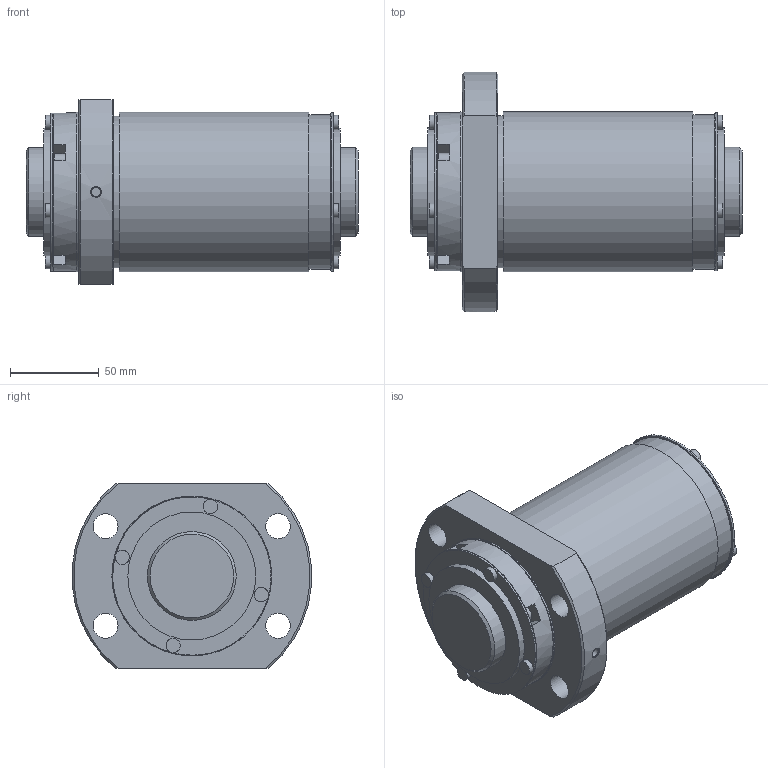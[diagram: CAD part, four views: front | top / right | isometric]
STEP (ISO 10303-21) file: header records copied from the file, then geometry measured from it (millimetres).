
FILE_DESCRIPTION(/* description */ ('STEP AP203'),/* implementation_level */ '2;1');
FILE_NAME(/* name */ 'BLK5050-2.8ZZG1+186.8LC3_0_1300',/* time_stamp */ '2025-01-16T07:05:18+01:00',/* author */ ('License CC BY-ND 4.0'),/* organization */ ('CADENAS'),/* preprocessor_version */ 'ST-DEVELOPER v19.3',/* originating_system */ 'PARTsolutions',/* authorisation */ ' ');
FILE_SCHEMA (('CONFIG_CONTROL_DESIGN'));
Length unit declared in the file: millimetre
Products named in the file (3): BLK5050-2.8ZZG1+186.8LC3_0_1300; ZZ0130BLK5050-2.80Shaft; RR0130BLK5050-2.8Nut
Assembly tree (2 placements, depth 2):
  BLK5050-2.8ZZG1+186.8LC3_0_1300
    ZZ0130BLK5050-2.80Shaft
    RR0130BLK5050-2.8Nut
Bounding box: 186.8 x 134.78 x 104 mm (x, y, z)
Volume: 1180378.8 mm3; surface area: 137353 mm2
Topology: 2 solids, 2 shells, 154 faces, 359 edges, 222 vertices
Faces by surface type: plane 95, cylinder 38, cone 17, torus 4
Full cylindrical faces by diameter (mm): 4.5 x4, 4.917 x1, 8 x8, 9.45 x4, 14 x4, 50 x2, 72 x2, 85.5 x1, 87 x1, 89 x3, 90 x2
Entity records: 4064 total; most frequent: CARTESIAN_POINT 773, DIRECTION 698, ORIENTED_EDGE 570, AXIS2_PLACEMENT_3D 289, EDGE_CURVE 285, FACE_BOUND 230, EDGE_LOOP 226, VERTEX_POINT 201
